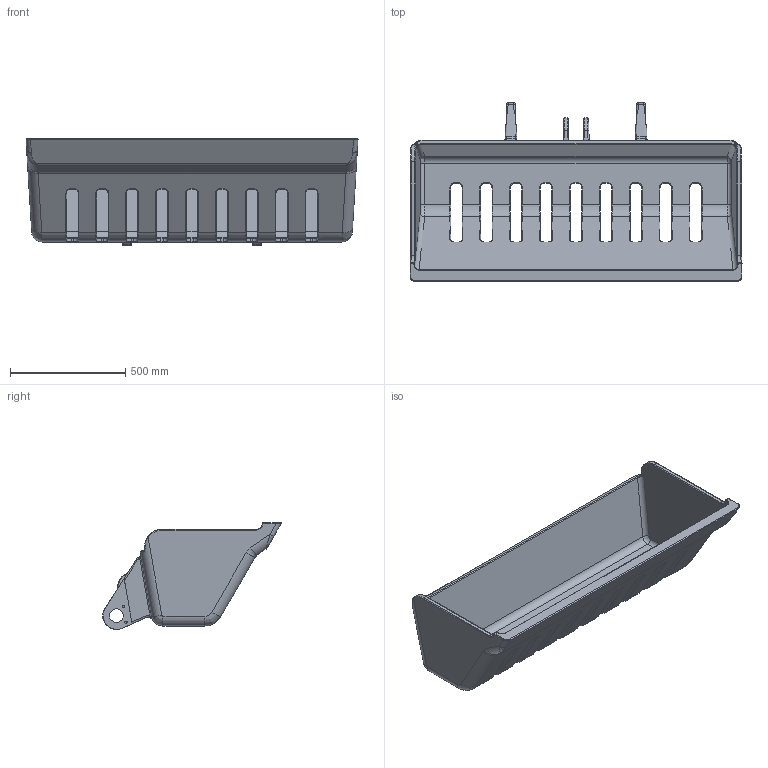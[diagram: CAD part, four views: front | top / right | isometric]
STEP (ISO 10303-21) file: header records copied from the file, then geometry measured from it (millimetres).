
FILE_DESCRIPTION(('CATIA V5 STEP Exchange','CAx-IF Rec.Pracs.--- Model Styling and Organization---1.4--- 2014-01-23','CAx-IF Rec.Pracs.---3D Tessellated Data Validation Properties---0.5---2014-09-14'),'2;1');
FILE_NAME('C:\Users\h-jaefarii\Desktop\PTM grab2\CAD\3S-403144.stp','2024-11-19T08:01:30+00:00',('none'),('none'),'CATIA Version 5-6 Release 2019','3DEXPERIENCE Platform STEP AP242 v1','none');
FILE_SCHEMA(('AP242_MANAGED_MODEL_BASED_3D_ENGINEERING_MIM_LF {1 0 10303 442 1 1 4}'));
Length unit declared in the file: millimetre
Products named in the file (1): 3S-403144
Bounding box: 1443.28 x 776.35 x 464.91 mm (x, y, z)
Volume: 41094273.7 mm3; surface area: 3744211.5 mm2
Topology: 1 solids, 1 shells, 561 faces, 1379 edges, 788 vertices
Faces by surface type: cylinder 268, torus 108, bspline 96, plane 89
Entity records: 24577 total; most frequent: CARTESIAN_POINT 12876, ORIENTED_EDGE 2718, DIRECTION 1804, EDGE_CURVE 1359, AXIS2_PLACEMENT_3D 900, VERTEX_POINT 784, EDGE_LOOP 579, ADVANCED_FACE 561
